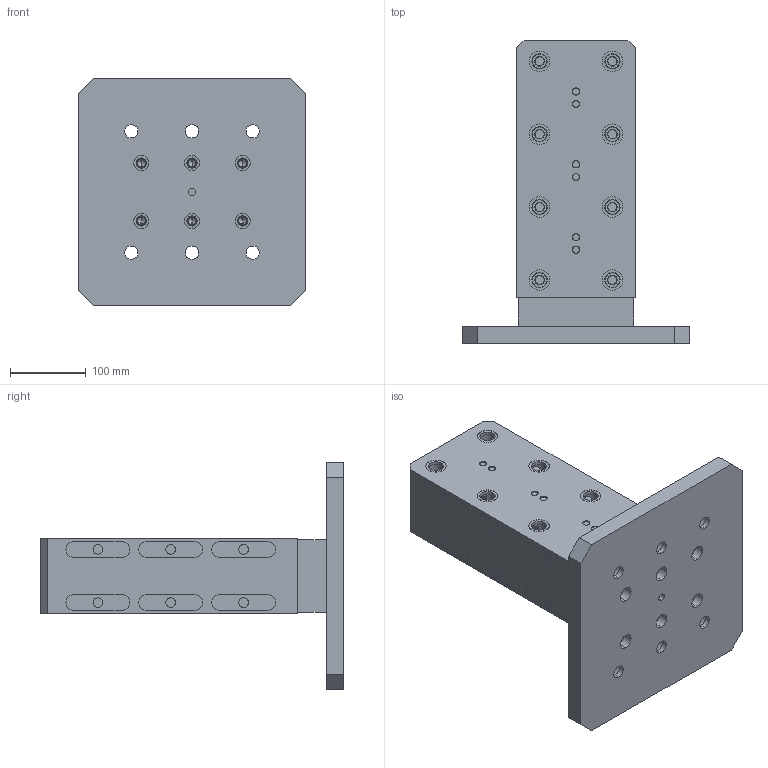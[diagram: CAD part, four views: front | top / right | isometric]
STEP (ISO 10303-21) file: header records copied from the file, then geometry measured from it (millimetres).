
FILE_DESCRIPTION (( 'STEP AP214' ), '1' );
FILE_NAME ('D_RL96A-3002.STEP', '2020-03-11T17:00:21', ( '' ), ( '' ), 'SwSTEP 2.0', 'SolidWorks 2018', '' );
FILE_SCHEMA (( 'AUTOMOTIVE_DESIGN' ));
Length unit declared in the file: millimetre
Products named in the file (3): D_RL96A-3002T; D_RL96A-3002B; D_RL96A-3002
Assembly tree (2 placements, depth 2):
  D_RL96A-3002
    D_RL96A-3002B
    D_RL96A-3002T
Bounding box: 300 x 400 x 300 mm (x, y, z)
Volume: 6970335.2 mm3; surface area: 654082.2 mm2
Topology: 2 solids, 2 shells, 860 faces, 2086 edges, 1355 vertices
Faces by surface type: cylinder 512, plane 298, cone 50
Entity records: 31268 total; most frequent: CARTESIAN_POINT 7268, DIRECTION 4754, ORIENTED_EDGE 4096, EDGE_CURVE 2048, AXIS2_PLACEMENT_3D 1949, VERTEX_POINT 1355, EDGE_LOOP 1095, CIRCLE 1084
